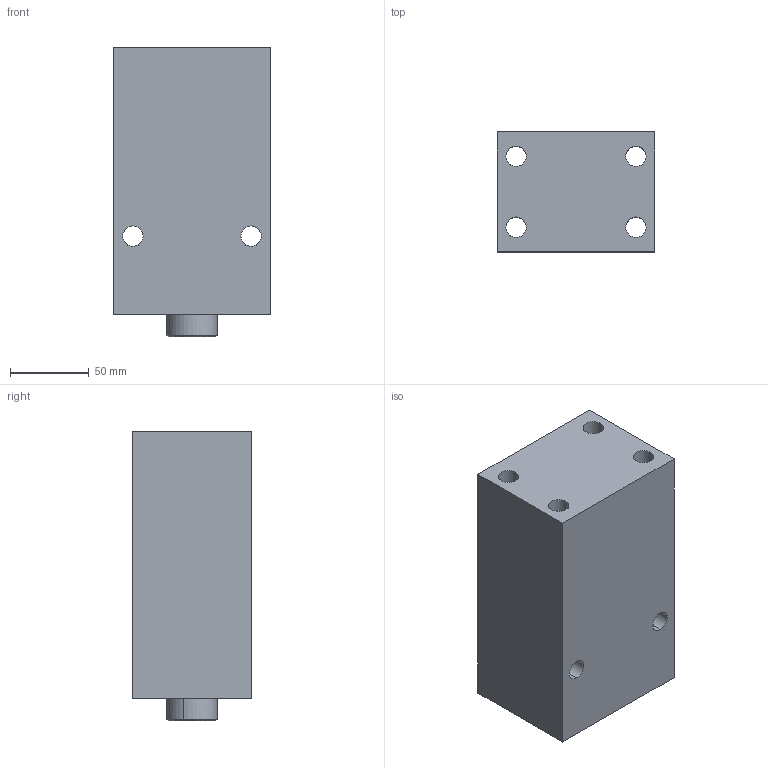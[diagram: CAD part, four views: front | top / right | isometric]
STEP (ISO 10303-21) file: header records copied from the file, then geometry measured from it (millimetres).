
FILE_DESCRIPTION (( 'STEP AP203' ), '1' );
FILE_NAME ('Block cylinder B01C-510F.STEP', '2022-07-09T18:32:56', ( '' ), ( '' ), 'SwSTEP 2.0', 'SolidWorks 2017', '' );
FILE_SCHEMA (( 'CONFIG_CONTROL_DESIGN' ));
Length unit declared in the file: millimetre
Products named in the file (3): Body_ 510F_50ST; Piston _ 510F; Block cylinder B01C-510F
Assembly tree (2 placements, depth 2):
  Block cylinder B01C-510F
    Body_ 510F_50ST
    Piston _ 510F
Bounding box: 100 x 76 x 184 mm (x, y, z)
Volume: 1288550.7 mm3; surface area: 131787.9 mm2
Topology: 2 solids, 2 shells, 213 faces, 574 edges, 377 vertices
Faces by surface type: plane 99, bspline 74, cylinder 32, cone 8
Entity records: 12057 total; most frequent: CARTESIAN_POINT 6901, ORIENTED_EDGE 1136, DIRECTION 742, EDGE_CURVE 568, VERTEX_POINT 377, LINE 338, VECTOR 338, EDGE_LOOP 251
